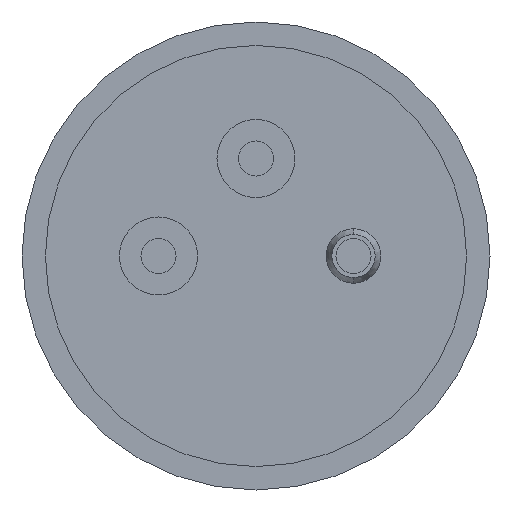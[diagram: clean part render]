
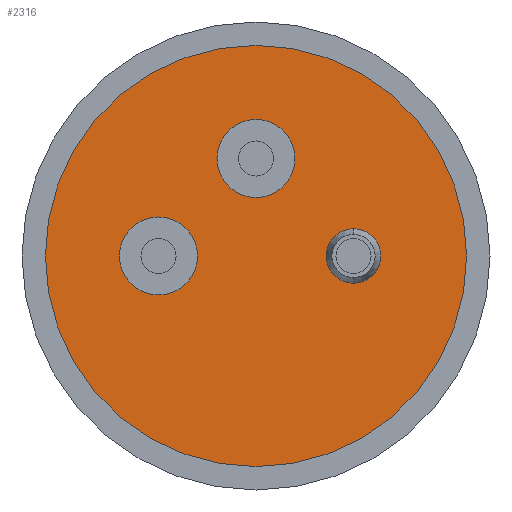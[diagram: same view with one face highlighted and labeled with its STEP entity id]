
A CAD part, front view. The second image highlights one B-rep face of the part: STEP entity #2316.
In plain terms, the highlighted planar face has unit normal (0, -1, 0).
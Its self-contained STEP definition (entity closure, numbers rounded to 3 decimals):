
#15 = DIRECTION ( 'NONE',  ( 0., 1., 0. ) ) ;
#16 = VERTEX_POINT ( 'NONE', #1332 ) ;
#104 = EDGE_CURVE ( 'NONE', #929, #1231, #2052, .T. ) ;
#112 = DIRECTION ( 'NONE',  ( 0., 0., -1. ) ) ;
#186 = CARTESIAN_POINT ( 'NONE',  ( 0., 0., 0. ) ) ;
#188 = EDGE_CURVE ( 'NONE', #1093, #951, #1380, .T. ) ;
#245 = CARTESIAN_POINT ( 'NONE',  ( 1.25, 0., 0. ) ) ;
#293 = EDGE_LOOP ( 'NONE', ( #610, #1289 ) ) ;
#474 = CIRCLE ( 'NONE', #771, 0.5 ) ;
#516 = ORIENTED_EDGE ( 'NONE', *, *, #188, .F. ) ;
#540 = CARTESIAN_POINT ( 'NONE',  ( 0., 0., 1.25 ) ) ;
#549 = DIRECTION ( 'NONE',  ( 0., -1., 0. ) ) ;
#610 = ORIENTED_EDGE ( 'NONE', *, *, #936, .F. ) ;
#616 = FACE_BOUND ( 'NONE', #293, .T. ) ;
#624 = CARTESIAN_POINT ( 'NONE',  ( 1.25, 0., -0.35 ) ) ;
#660 = AXIS2_PLACEMENT_3D ( 'NONE', #1685, #549, #1689 ) ;
#673 = CIRCLE ( 'NONE', #1223, 0.35 ) ;
#677 = CARTESIAN_POINT ( 'NONE',  ( -1.25, 0., -0.5 ) ) ;
#695 = CARTESIAN_POINT ( 'NONE',  ( 0., 0., -2.7 ) ) ;
#728 = CARTESIAN_POINT ( 'NONE',  ( 0., 0., 0. ) ) ;
#737 = CARTESIAN_POINT ( 'NONE',  ( 0., 0., 2.7 ) ) ;
#771 = AXIS2_PLACEMENT_3D ( 'NONE', #2111, #1517, #949 ) ;
#814 = EDGE_LOOP ( 'NONE', ( #1952, #1037 ) ) ;
#884 = AXIS2_PLACEMENT_3D ( 'NONE', #1058, #1247, #918 ) ;
#918 = DIRECTION ( 'NONE',  ( 0., 0., 1. ) ) ;
#921 = DIRECTION ( 'NONE',  ( 0., 0., 1. ) ) ;
#929 = VERTEX_POINT ( 'NONE', #695 ) ;
#936 = EDGE_CURVE ( 'NONE', #1003, #1041, #2318, .T. ) ;
#949 = DIRECTION ( 'NONE',  ( 0., 0., -1. ) ) ;
#951 = VERTEX_POINT ( 'NONE', #1345 ) ;
#967 = CIRCLE ( 'NONE', #2292, 0.5 ) ;
#1001 = DIRECTION ( 'NONE',  ( 0., 0., 1. ) ) ;
#1003 = VERTEX_POINT ( 'NONE', #624 ) ;
#1037 = ORIENTED_EDGE ( 'NONE', *, *, #1465, .F. ) ;
#1041 = VERTEX_POINT ( 'NONE', #1550 ) ;
#1058 = CARTESIAN_POINT ( 'NONE',  ( 1.25, 0., 0. ) ) ;
#1073 = DIRECTION ( 'NONE',  ( 0., -1., 0. ) ) ;
#1093 = VERTEX_POINT ( 'NONE', #2425 ) ;
#1109 = DIRECTION ( 'NONE',  ( 0., 1., 0. ) ) ;
#1140 = CARTESIAN_POINT ( 'NONE',  ( 0., 0., 0. ) ) ;
#1183 = FACE_BOUND ( 'NONE', #814, .T. ) ;
#1216 = EDGE_CURVE ( 'NONE', #1231, #929, #2194, .T. ) ;
#1223 = AXIS2_PLACEMENT_3D ( 'NONE', #245, #1531, #1001 ) ;
#1231 = VERTEX_POINT ( 'NONE', #737 ) ;
#1247 = DIRECTION ( 'NONE',  ( 0., -1., 0. ) ) ;
#1280 = AXIS2_PLACEMENT_3D ( 'NONE', #1140, #15, #1304 ) ;
#1288 = FACE_BOUND ( 'NONE', #1807, .T. ) ;
#1289 = ORIENTED_EDGE ( 'NONE', *, *, #1834, .F. ) ;
#1299 = VERTEX_POINT ( 'NONE', #677 ) ;
#1304 = DIRECTION ( 'NONE',  ( 0., 0., 1. ) ) ;
#1326 = ORIENTED_EDGE ( 'NONE', *, *, #104, .F. ) ;
#1332 = CARTESIAN_POINT ( 'NONE',  ( -1.25, 0., 0.5 ) ) ;
#1345 = CARTESIAN_POINT ( 'NONE',  ( 0., 0., 0.75 ) ) ;
#1380 = CIRCLE ( 'NONE', #1780, 0.5 ) ;
#1409 = ORIENTED_EDGE ( 'NONE', *, *, #1216, .F. ) ;
#1456 = AXIS2_PLACEMENT_3D ( 'NONE', #728, #2303, #921 ) ;
#1465 = EDGE_CURVE ( 'NONE', #16, #1299, #1747, .T. ) ;
#1501 = PLANE ( 'NONE',  #1280 ) ;
#1517 = DIRECTION ( 'NONE',  ( 0., -1., 0. ) ) ;
#1531 = DIRECTION ( 'NONE',  ( 0., -1., 0. ) ) ;
#1550 = CARTESIAN_POINT ( 'NONE',  ( 1.25, 0., 0.35 ) ) ;
#1553 = DIRECTION ( 'NONE',  ( 0., -1., 0. ) ) ;
#1668 = ORIENTED_EDGE ( 'NONE', *, *, #2087, .F. ) ;
#1685 = CARTESIAN_POINT ( 'NONE',  ( -1.25, 0., 0. ) ) ;
#1689 = DIRECTION ( 'NONE',  ( 0., 0., -1. ) ) ;
#1692 = EDGE_CURVE ( 'NONE', #1299, #16, #474, .T. ) ;
#1747 = CIRCLE ( 'NONE', #660, 0.5 ) ;
#1780 = AXIS2_PLACEMENT_3D ( 'NONE', #1950, #1553, #2337 ) ;
#1807 = EDGE_LOOP ( 'NONE', ( #1668, #516 ) ) ;
#1834 = EDGE_CURVE ( 'NONE', #1041, #1003, #673, .T. ) ;
#1885 = DIRECTION ( 'NONE',  ( 0., 0., 1. ) ) ;
#1950 = CARTESIAN_POINT ( 'NONE',  ( 0., 0., 1.25 ) ) ;
#1952 = ORIENTED_EDGE ( 'NONE', *, *, #1692, .F. ) ;
#2052 = CIRCLE ( 'NONE', #2240, 2.7 ) ;
#2087 = EDGE_CURVE ( 'NONE', #951, #1093, #967, .T. ) ;
#2111 = CARTESIAN_POINT ( 'NONE',  ( -1.25, 0., 0. ) ) ;
#2191 = EDGE_LOOP ( 'NONE', ( #1326, #1409 ) ) ;
#2194 = CIRCLE ( 'NONE', #1456, 2.7 ) ;
#2204 = FACE_OUTER_BOUND ( 'NONE', #2191, .T. ) ;
#2240 = AXIS2_PLACEMENT_3D ( 'NONE', #186, #1109, #1885 ) ;
#2292 = AXIS2_PLACEMENT_3D ( 'NONE', #540, #1073, #112 ) ;
#2303 = DIRECTION ( 'NONE',  ( 0., 1., 0. ) ) ;
#2316 = ADVANCED_FACE ( 'NONE', ( #616, #1288, #1183, #2204 ), #1501, .F. ) ;
#2318 = CIRCLE ( 'NONE', #884, 0.35 ) ;
#2337 = DIRECTION ( 'NONE',  ( 0., 0., -1. ) ) ;
#2425 = CARTESIAN_POINT ( 'NONE',  ( 0., 0., 1.75 ) ) ;
